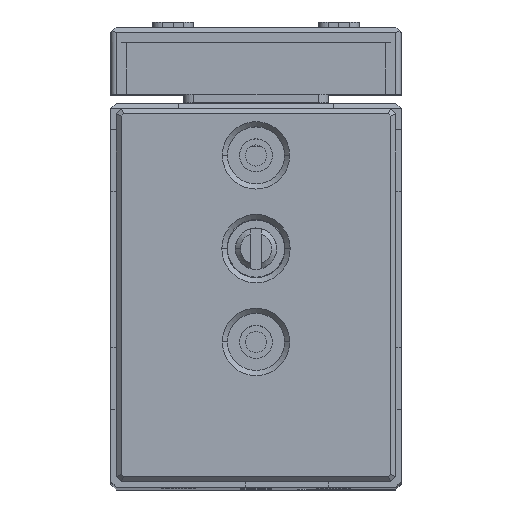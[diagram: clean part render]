
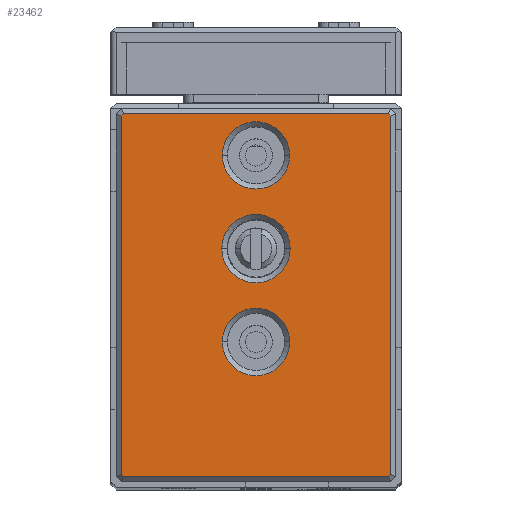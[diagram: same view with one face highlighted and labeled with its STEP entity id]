
A CAD part, top view. The second image highlights one B-rep face of the part: STEP entity #23462.
In plain terms, the highlighted planar face has unit normal (0, 0, 1) as drawn and (0, 0, -1) by its records, which use the part's own axes.
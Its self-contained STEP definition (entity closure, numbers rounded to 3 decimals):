
#194 = DIRECTION ( 'NONE',  ( 0., -1., 0. ) ) ;
#857 = ORIENTED_EDGE ( 'NONE', *, *, #3015, .T. ) ;
#1335 = CIRCLE ( 'NONE', #36453, 3.25 ) ;
#1345 = ORIENTED_EDGE ( 'NONE', *, *, #45082, .T. ) ;
#1719 = DIRECTION ( 'NONE',  ( 1., 0., 0. ) ) ;
#2336 = DIRECTION ( 'NONE',  ( 0., 0., 1. ) ) ;
#2349 = EDGE_LOOP ( 'NONE', ( #29098, #857 ) ) ;
#2505 = DIRECTION ( 'NONE',  ( 0.707, -0.707, 0. ) ) ;
#2870 = AXIS2_PLACEMENT_3D ( 'NONE', #24124, #20034, #48325 ) ;
#2949 = VERTEX_POINT ( 'NONE', #22918 ) ;
#3015 = EDGE_CURVE ( 'NONE', #34046, #42564, #51998, .T. ) ;
#3073 = VECTOR ( 'NONE', #33590, 1000. ) ;
#4993 = ORIENTED_EDGE ( 'NONE', *, *, #10378, .T. ) ;
#5110 = DIRECTION ( 'NONE',  ( 0., 0., 1. ) ) ;
#5407 = ORIENTED_EDGE ( 'NONE', *, *, #6962, .T. ) ;
#5858 = DIRECTION ( 'NONE',  ( 0.707, 0.707, 0. ) ) ;
#6962 = EDGE_CURVE ( 'NONE', #51351, #23847, #25937, .T. ) ;
#7115 = DIRECTION ( 'NONE',  ( 1., 0., 0. ) ) ;
#7413 = CIRCLE ( 'NONE', #57529, 3.25 ) ;
#7533 = CARTESIAN_POINT ( 'NONE',  ( 30.896, 30.896, 0. ) ) ;
#7710 = CARTESIAN_POINT ( 'NONE',  ( 12.896, -12.896, 0. ) ) ;
#7726 = CIRCLE ( 'NONE', #52808, 3.3 ) ;
#7773 = CARTESIAN_POINT ( 'NONE',  ( 0.5, 0.707, 0. ) ) ;
#8541 = AXIS2_PLACEMENT_3D ( 'NONE', #30141, #41105, #49315 ) ;
#8741 = CARTESIAN_POINT ( 'NONE',  ( 0., 0., 0. ) ) ;
#8756 = EDGE_CURVE ( 'NONE', #23847, #22423, #11608, .T. ) ;
#9459 = VERTEX_POINT ( 'NONE', #7773 ) ;
#9583 = VECTOR ( 'NONE', #43866, 1000. ) ;
#9658 = FACE_OUTER_BOUND ( 'NONE', #53290, .T. ) ;
#10378 = EDGE_CURVE ( 'NONE', #43264, #58331, #12530, .T. ) ;
#11117 = CARTESIAN_POINT ( 'NONE',  ( 13.5, 31.5, 0. ) ) ;
#11282 = ORIENTED_EDGE ( 'NONE', *, *, #32461, .T. ) ;
#11564 = VECTOR ( 'NONE', #5858, 1000. ) ;
#11608 = LINE ( 'NONE', #7533, #23930 ) ;
#12530 = CIRCLE ( 'NONE', #8541, 3.25 ) ;
#14429 = CARTESIAN_POINT ( 'NONE',  ( 0.604, 0.604, 0. ) ) ;
#14522 = EDGE_CURVE ( 'NONE', #22423, #2949, #30290, .T. ) ;
#15912 = ORIENTED_EDGE ( 'NONE', *, *, #32984, .T. ) ;
#16950 = ORIENTED_EDGE ( 'NONE', *, *, #8756, .T. ) ;
#17580 = AXIS2_PLACEMENT_3D ( 'NONE', #8741, #61470, #56769 ) ;
#18222 = CARTESIAN_POINT ( 'NONE',  ( 0.707, 35.5, 0. ) ) ;
#20034 = DIRECTION ( 'NONE',  ( 0., 0., 1. ) ) ;
#21174 = ORIENTED_EDGE ( 'NONE', *, *, #39899, .T. ) ;
#21384 = DIRECTION ( 'NONE',  ( 0., 0., 1. ) ) ;
#21454 = CIRCLE ( 'NONE', #55546, 3.25 ) ;
#22423 = VERTEX_POINT ( 'NONE', #34892 ) ;
#22918 = CARTESIAN_POINT ( 'NONE',  ( 26.5, 0.707, 0. ) ) ;
#23368 = CARTESIAN_POINT ( 'NONE',  ( 26.293, 0.5, 0. ) ) ;
#23462 = ADVANCED_FACE ( 'NONE', ( #9658, #42006, #28797, #41698 ), #61159, .F. ) ;
#23847 = VERTEX_POINT ( 'NONE', #24998 ) ;
#23915 = LINE ( 'NONE', #43051, #52093 ) ;
#23930 = VECTOR ( 'NONE', #2505, 1000. ) ;
#24071 = CARTESIAN_POINT ( 'NONE',  ( -17.396, 17.396, 0. ) ) ;
#24124 = CARTESIAN_POINT ( 'NONE',  ( 13.5, 22.5, 0. ) ) ;
#24162 = CARTESIAN_POINT ( 'NONE',  ( 10.25, 13.5, 0. ) ) ;
#24230 = EDGE_LOOP ( 'NONE', ( #11282, #4993 ) ) ;
#24231 = DIRECTION ( 'NONE',  ( 1., 0., 0. ) ) ;
#24338 = CARTESIAN_POINT ( 'NONE',  ( 16.75, 13.5, 0. ) ) ;
#24998 = CARTESIAN_POINT ( 'NONE',  ( 26.293, 35.5, 0. ) ) ;
#25004 = ORIENTED_EDGE ( 'NONE', *, *, #30166, .T. ) ;
#25306 = VERTEX_POINT ( 'NONE', #24162 ) ;
#25664 = VERTEX_POINT ( 'NONE', #24338 ) ;
#25937 = LINE ( 'NONE', #45098, #54904 ) ;
#26286 = VERTEX_POINT ( 'NONE', #23368 ) ;
#28659 = EDGE_LOOP ( 'NONE', ( #15912, #41008 ) ) ;
#28797 = FACE_BOUND ( 'NONE', #28659, .T. ) ;
#29019 = CARTESIAN_POINT ( 'NONE',  ( 0.5, 35.293, 0. ) ) ;
#29098 = ORIENTED_EDGE ( 'NONE', *, *, #36717, .T. ) ;
#29363 = CARTESIAN_POINT ( 'NONE',  ( 26.5, 0., 0. ) ) ;
#29725 = CARTESIAN_POINT ( 'NONE',  ( 16.8, 22.5, 0. ) ) ;
#30141 = CARTESIAN_POINT ( 'NONE',  ( 13.5, 31.5, 0. ) ) ;
#30166 = EDGE_CURVE ( 'NONE', #41936, #51351, #43528, .T. ) ;
#30290 = LINE ( 'NONE', #29363, #53768 ) ;
#32461 = EDGE_CURVE ( 'NONE', #58331, #43264, #1335, .T. ) ;
#32699 = EDGE_CURVE ( 'NONE', #25664, #25306, #7413, .T. ) ;
#32984 = EDGE_CURVE ( 'NONE', #25306, #25664, #21454, .T. ) ;
#33349 = DIRECTION ( 'NONE',  ( 0., 1., 0. ) ) ;
#33590 = DIRECTION ( 'NONE',  ( -0.707, 0.707, 0. ) ) ;
#34046 = VERTEX_POINT ( 'NONE', #29725 ) ;
#34136 = CARTESIAN_POINT ( 'NONE',  ( 0., 0.5, 0. ) ) ;
#34892 = CARTESIAN_POINT ( 'NONE',  ( 26.5, 35.293, 0. ) ) ;
#35462 = EDGE_CURVE ( 'NONE', #26286, #44339, #52707, .T. ) ;
#35727 = ORIENTED_EDGE ( 'NONE', *, *, #14522, .T. ) ;
#36265 = VECTOR ( 'NONE', #61050, 1000. ) ;
#36453 = AXIS2_PLACEMENT_3D ( 'NONE', #11117, #2336, #1719 ) ;
#36717 = EDGE_CURVE ( 'NONE', #42564, #34046, #7726, .T. ) ;
#38284 = LINE ( 'NONE', #14429, #3073 ) ;
#39834 = ORIENTED_EDGE ( 'NONE', *, *, #51551, .T. ) ;
#39899 = EDGE_CURVE ( 'NONE', #9459, #41936, #23915, .T. ) ;
#41008 = ORIENTED_EDGE ( 'NONE', *, *, #32699, .T. ) ;
#41105 = DIRECTION ( 'NONE',  ( 0., 0., 1. ) ) ;
#41698 = FACE_BOUND ( 'NONE', #24230, .T. ) ;
#41936 = VERTEX_POINT ( 'NONE', #29019 ) ;
#42006 = FACE_BOUND ( 'NONE', #2349, .T. ) ;
#42152 = DIRECTION ( 'NONE',  ( 0., 0., 1. ) ) ;
#42564 = VERTEX_POINT ( 'NONE', #50863 ) ;
#43051 = CARTESIAN_POINT ( 'NONE',  ( 0.5, 0., 0. ) ) ;
#43264 = VERTEX_POINT ( 'NONE', #51329 ) ;
#43528 = LINE ( 'NONE', #24071, #11564 ) ;
#43866 = DIRECTION ( 'NONE',  ( -1., 0., 0. ) ) ;
#44339 = VERTEX_POINT ( 'NONE', #46061 ) ;
#44624 = CARTESIAN_POINT ( 'NONE',  ( 13.5, 13.5, 0. ) ) ;
#45082 = EDGE_CURVE ( 'NONE', #2949, #26286, #45991, .T. ) ;
#45098 = CARTESIAN_POINT ( 'NONE',  ( 0., 35.5, 0. ) ) ;
#45564 = DIRECTION ( 'NONE',  ( 1., 0., 0. ) ) ;
#45991 = LINE ( 'NONE', #7710, #36265 ) ;
#46061 = CARTESIAN_POINT ( 'NONE',  ( 0.707, 0.5, 0. ) ) ;
#46308 = CARTESIAN_POINT ( 'NONE',  ( 10.25, 31.5, 0. ) ) ;
#48325 = DIRECTION ( 'NONE',  ( 1., 0., 0. ) ) ;
#49315 = DIRECTION ( 'NONE',  ( 1., 0., 0. ) ) ;
#50863 = CARTESIAN_POINT ( 'NONE',  ( 10.2, 22.5, 0. ) ) ;
#51329 = CARTESIAN_POINT ( 'NONE',  ( 16.75, 31.5, 0. ) ) ;
#51351 = VERTEX_POINT ( 'NONE', #18222 ) ;
#51551 = EDGE_CURVE ( 'NONE', #44339, #9459, #38284, .T. ) ;
#51998 = CIRCLE ( 'NONE', #2870, 3.3 ) ;
#52093 = VECTOR ( 'NONE', #33349, 1000. ) ;
#52521 = CARTESIAN_POINT ( 'NONE',  ( 13.5, 13.5, 0. ) ) ;
#52707 = LINE ( 'NONE', #34136, #9583 ) ;
#52808 = AXIS2_PLACEMENT_3D ( 'NONE', #52856, #5110, #24231 ) ;
#52856 = CARTESIAN_POINT ( 'NONE',  ( 13.5, 22.5, 0. ) ) ;
#53290 = EDGE_LOOP ( 'NONE', ( #35727, #1345, #55726, #39834, #21174, #25004, #5407, #16950 ) ) ;
#53768 = VECTOR ( 'NONE', #194, 1000. ) ;
#54904 = VECTOR ( 'NONE', #7115, 1000. ) ;
#55546 = AXIS2_PLACEMENT_3D ( 'NONE', #44624, #21384, #45564 ) ;
#55726 = ORIENTED_EDGE ( 'NONE', *, *, #35462, .T. ) ;
#56769 = DIRECTION ( 'NONE',  ( 1., 0., 0. ) ) ;
#57529 = AXIS2_PLACEMENT_3D ( 'NONE', #52521, #42152, #61308 ) ;
#58331 = VERTEX_POINT ( 'NONE', #46308 ) ;
#61050 = DIRECTION ( 'NONE',  ( -0.707, -0.707, 0. ) ) ;
#61159 = PLANE ( 'NONE',  #17580 ) ;
#61308 = DIRECTION ( 'NONE',  ( 1., 0., 0. ) ) ;
#61470 = DIRECTION ( 'NONE',  ( 0., 0., 1. ) ) ;
